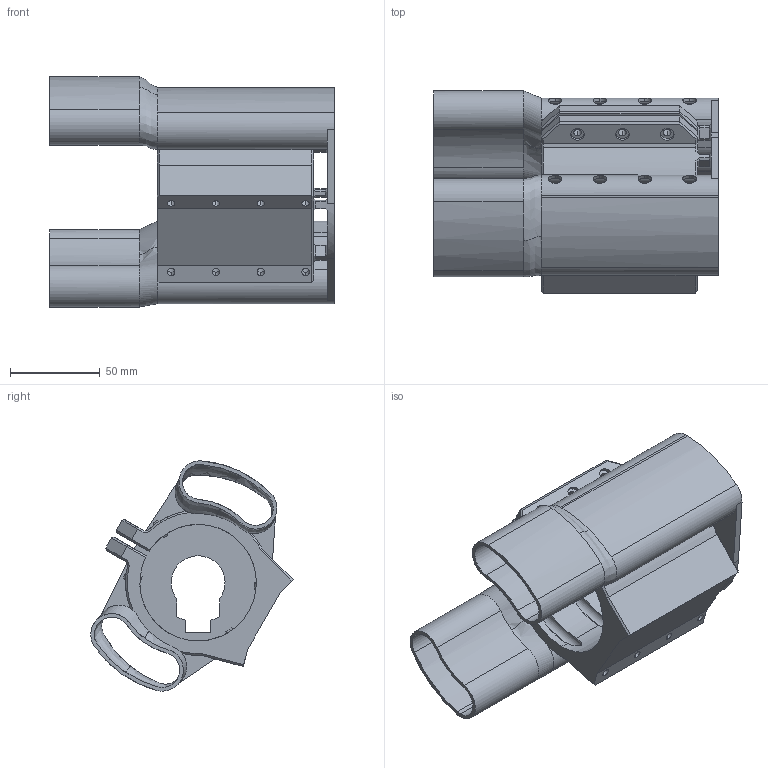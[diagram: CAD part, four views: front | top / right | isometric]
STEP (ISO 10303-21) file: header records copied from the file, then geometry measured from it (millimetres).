
FILE_DESCRIPTION (( 'STEP AP203' ), '1' );
FILE_NAME ('Haltesaugschuh.STEP', '2022-02-25T19:20:21', ( 'Alex' ), ( '' ), 'SwSTEP 2.0', 'SolidWorks 2021', '' );
FILE_SCHEMA (( 'CONFIG_CONTROL_DESIGN' ));
Length unit declared in the file: millimetre
Products named in the file (1): Haltesaugschuh
Bounding box: 158.75 x 112.82 x 128.36 mm (x, y, z)
Volume: 292451.8 mm3; surface area: 143308.5 mm2
Topology: 1 solids, 1 shells, 315 faces, 906 edges, 587 vertices
Faces by surface type: plane 139, cylinder 120, bspline 32, cone 24
Entity records: 15512 total; most frequent: CARTESIAN_POINT 7355, ORIENTED_EDGE 1812, DIRECTION 1499, EDGE_CURVE 906, VERTEX_POINT 587, AXIS2_PLACEMENT_3D 525, LINE 449, VECTOR 449
